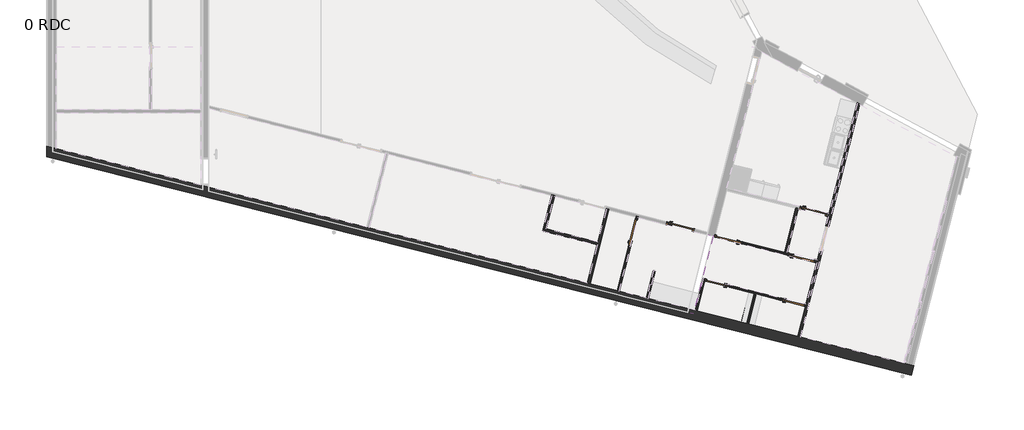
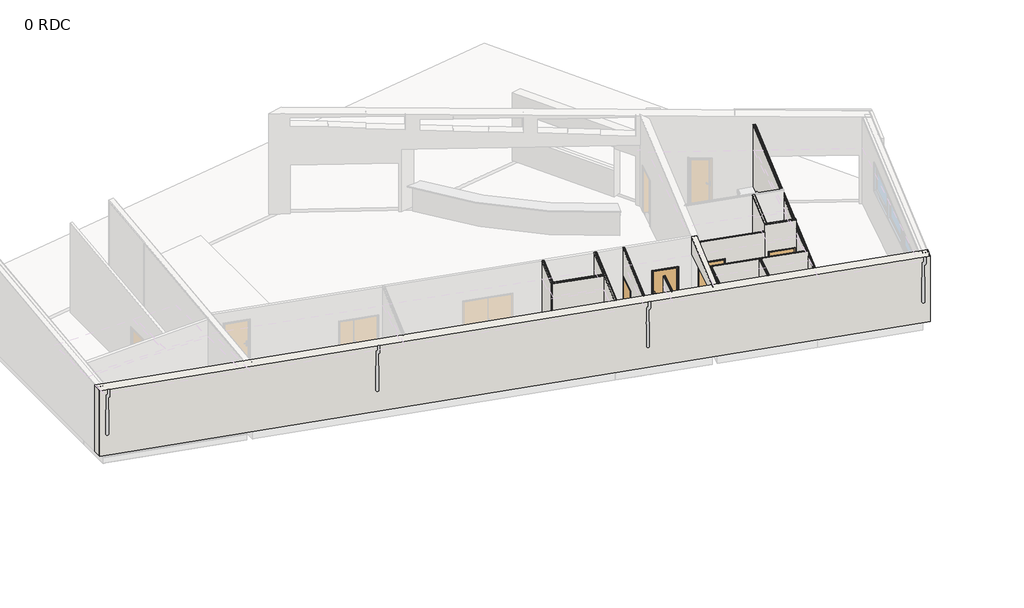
# One storey, part 1 of 4: 16 walls, 7 doors.
"""IFC4 building model written with IfcOpenShell, lengths in millimetres."""

from ifc_helpers import new_model, si_unit, frame, origin, place, context, project, spatial, polyline, outline, extrude, faceted_brep, transform, mapped, element, save
from components import int_simple_pp_0_83m_x_2_04m_d085e722, int_simple_pp_0_83m_x_2_04m_f50dcbdd, int_simple_pp_0_93m_x_2_04m_e5c7a8a5, int_simple_pp_0_93m_x_2_04m_fd0a7685, int_simple_pp_0_93m_x_2_04m_1a1e59e4

model = new_model("IFC4")

# Units and contexts
model_context = context("Model", 3, world=origin())
ifc_project = project(units=[si_unit("LENGTHUNIT", "METRE", prefix="MILLI")], contexts=[model_context])

# Site, building, storey
site = spatial("IfcSite", under=ifc_project)
building = spatial("IfcBuilding", under=site)
storey = spatial("IfcBuildingStorey", under=building, Name="0 RDC", Elevation=870000.0)

# Doors
placement = place(None, origin())
int_simple_pp_0_83m_x_2_04m_shape = int_simple_pp_0_83m_x_2_04m_d085e722(model_context)
element("IfcDoor", 1, ObjectType="Int. Simple : PP (0.83m x 2.04m)", at=placement, inside=storey, context=model_context, shape_type="MappedRepresentation", body=[
    mapped(int_simple_pp_0_83m_x_2_04m_shape, transform((43281.7809826, -2542.3321909, 870000.0), x_axis=(-0.9692836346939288, 0.24594559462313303, 0.0), y_axis=(-0.24594559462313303, -0.9692836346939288, 0.0), z_axis=(0.0, 0.0, 1.0))),
])
int_simple_pp_0_83m_x_2_04m_2_shape = int_simple_pp_0_83m_x_2_04m_f50dcbdd(model_context)
element("IfcDoor", 2, ObjectType="Int. Simple : PP (0.83m x 2.04m)", at=placement, inside=storey, context=model_context, shape_type="MappedRepresentation", body=[
    mapped(int_simple_pp_0_83m_x_2_04m_2_shape, transform((46034.5465051, -3240.8176796, 870000.0), x_axis=(0.9692836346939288, -0.24594559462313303, 0.0), y_axis=(0.24594559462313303, 0.9692836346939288, 0.0), z_axis=(0.0, 0.0, 1.0))),
])
int_simple_pp_0_93m_x_2_04m_shape = int_simple_pp_0_93m_x_2_04m_e5c7a8a5(model_context)
element("IfcDoor", 3, ObjectType="Int. Simple : PP (0.93m x 2.04m)", at=placement, inside=storey, context=model_context, shape_type="MappedRepresentation", body=[
    mapped(int_simple_pp_0_93m_x_2_04m_shape, transform((46345.2509501, -1650.3816552, 870000.0), x_axis=(0.9692836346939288, -0.24594559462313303, 0.0), y_axis=(0.24594559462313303, 0.9692836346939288, 0.0), z_axis=(0.0, 0.0, 1.0))),
])
int_simple_pp_0_93m_x_2_04m_2_shape = int_simple_pp_0_93m_x_2_04m_fd0a7685(model_context)
element("IfcDoor", 4, ObjectType="Int. Simple : PP (0.93m x 2.04m)", at=placement, inside=storey, context=model_context, shape_type="MappedRepresentation", body=[
    mapped(int_simple_pp_0_93m_x_2_04m_2_shape, transform((42022.2459393, -553.4643032, 870000.0), x_axis=(0.9692836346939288, -0.245945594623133, 0.0), y_axis=(0.245945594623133, 0.9692836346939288, 0.0), z_axis=(0.0, 0.0, 1.0))),
])
element("IfcDoor", 5, ObjectType="Int. Simple : PP (0.93m x 2.04m)", at=placement, inside=storey, context=model_context, shape_type="MappedRepresentation", body=[
    mapped(int_simple_pp_0_93m_x_2_04m_2_shape, transform((46762.8665697, -4.5380435, 870000.0), x_axis=(0.9692836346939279, -0.2459455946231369, 0.0), y_axis=(0.2459455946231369, 0.9692836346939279, 0.0), z_axis=(0.0, 0.0, 1.0))),
])
int_simple_pp_0_93m_x_2_04m_3_shape = int_simple_pp_0_93m_x_2_04m_1a1e59e4(model_context)
element("IfcDoor", 6, ObjectType="Int. Simple : PP (0.93m x 2.04m)", at=placement, inside=storey, context=model_context, shape_type="MappedRepresentation", body=[
    mapped(int_simple_pp_0_93m_x_2_04m_3_shape, transform((40319.8031781, -712.6454729, 870000.0), x_axis=(0.24594559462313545, 0.9692836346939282, 0.0), y_axis=(-0.9692836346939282, 0.24594559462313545, 0.0), z_axis=(0.0, 0.0, 1.0))),
])
element("IfcDoor", 7, ObjectType="Int. Simple : PP (0.93m x 2.04m)", at=placement, inside=storey, context=model_context, shape_type="MappedRepresentation", body=[
    mapped(int_simple_pp_0_93m_x_2_04m_3_shape, transform((43679.0724215, -987.2786783, 870000.0), x_axis=(-0.9692836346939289, 0.24594559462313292, 0.0), y_axis=(-0.24594559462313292, -0.9692836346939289, 0.0), z_axis=(0.0, 0.0, 1.0))),
])

# Walls
element("IfcWall", 8, ObjectType="Cloison de séparation", at=placement, inside=storey, context=model_context, shape_type="Brep", body=[
    faceted_brep([(46874.3928222, -1809.4064307, 872953.9215885), (46886.1982107, -1762.8808162, 872953.9215885), (46861.9661198, -1756.7321763, 872953.9215885), (46850.1607313, -1803.2577908, 872953.9215885), (46886.1982107, -1762.8808162, 870000.0), (46801.8705345, -1741.4835495, 870000.0), (46801.8705345, -1741.4835495, 872075.0), (45832.5868998, -1495.5379548, 872075.0), (45832.5868998, -1495.5379548, 870000.0), (45723.0578491, -1467.7461026, 870000.0), (45723.0578491, -1467.7461026, 872953.9215885), (45723.0578491, -1467.7461026, 873000.0), (45723.0578491, -1467.7461026, 873314.6288021), (46861.9661198, -1756.7321763, 873314.6288021), (46861.9661198, -1756.7321763, 873000.0), (46874.3928222, -1809.4064307, 870000.0), (46790.0651459, -1788.0091639, 870000.0), (46790.0651459, -1788.0091639, 872075.0), (45820.7815112, -1542.0635693, 872075.0), (45820.7815112, -1542.0635693, 870000.0), (45711.2524605, -1514.2717171, 870000.0), (46850.1607313, -1803.2577908, 873000.0), (46850.1607313, -1803.2577908, 873308.8688021), (45711.2524605, -1514.2717171, 873308.8688021), (45711.2524605, -1514.2717171, 873000.0), (45711.2524605, -1514.2717171, 872953.9215885)], [[[0, 1, 2, 3]], [[4, 5, 6, 7, 8, 9, 10, 11, 12, 13, 14, 2, 1]], [[5, 4, 15, 16]], [[6, 5, 16, 17]], [[7, 6, 17, 18]], [[8, 7, 18, 19]], [[9, 8, 19, 20]], [[16, 15, 0, 3, 21, 22, 23, 24, 25, 20, 19, 18, 17]], [[15, 4, 1, 0]], [[13, 12, 23, 22]], [[20, 25, 24, 23, 12, 11, 10, 9]], [[2, 14, 13, 22, 21, 3]]]),
    faceted_brep([(46808.0191743, -1717.2514586, 870000.0), (46868.1147597, -1732.5000855, 870000.0), (46861.9661198, -1756.7321763, 870000.0), (46801.8705345, -1741.4835495, 870000.0), (46801.8705345, -1741.4835495, 872075.0), (46808.0191743, -1717.2514586, 872075.0), (45832.5868998, -1495.5379548, 872075.0), (45838.7355396, -1471.305864, 872075.0), (45832.5868998, -1495.5379548, 870000.0), (45838.7355396, -1471.305864, 870000.0), (45769.5834635, -1479.5514912, 870000.0), (45775.7321034, -1455.3194003, 870000.0), (45799.9641943, -1461.4680402, 870000.0), (45775.7321034, -1455.3194003, 872953.9215885), (45775.7321034, -1455.3194003, 873000.0), (45775.7321034, -1455.3194003, 873317.6288021), (45799.9641943, -1461.4680402, 873317.6288021), (46868.1147597, -1732.5000855, 873317.6288021), (46868.1147597, -1732.5000855, 873000.0), (46868.1147597, -1732.5000855, 872953.9215885), (46861.9661198, -1756.7321763, 872953.9215885), (46861.9661198, -1756.7321763, 873000.0), (46861.9661198, -1756.7321763, 873314.6288021), (45769.5834635, -1479.5514912, 873314.6288021), (45769.5834635, -1479.5514912, 873000.0), (45769.5834635, -1479.5514912, 872953.9215885)], [[[0, 1, 2, 3]], [[0, 3, 4, 5]], [[5, 4, 6, 7]], [[7, 6, 8, 9]], [[9, 8, 10, 11, 12]], [[1, 0, 5, 7, 9, 12, 11, 13, 14, 15, 16, 17, 18, 19]], [[3, 2, 20, 21, 22, 23, 24, 25, 10, 8, 6, 4]], [[13, 11, 10, 25, 24, 23, 15, 14]], [[16, 15, 23, 22, 17]], [[2, 1, 19, 18, 17, 22, 21, 20]]]),
    faceted_brep([(46850.1607313, -1803.2577908, 870000.0), (46790.0651459, -1788.0091639, 870000.0), (46790.0651459, -1788.0091639, 872075.0), (45820.7815112, -1542.0635693, 872075.0), (45820.7815112, -1542.0635693, 870000.0), (45687.0203697, -1508.1230772, 870000.0), (45687.0203697, -1508.1230772, 872953.9215885), (45687.0203697, -1508.1230772, 873000.0), (45687.0203697, -1508.1230772, 873308.8688021), (46850.1607313, -1803.2577908, 873308.8688021), (46850.1607313, -1803.2577908, 873000.0), (46850.1607313, -1803.2577908, 872953.9215885), (46844.0120914, -1827.4898817, 870000.0), (46783.9165061, -1812.2412548, 870000.0), (46783.9165061, -1812.2412548, 872075.0), (45814.6328714, -1566.2956602, 872075.0), (45814.6328714, -1566.2956602, 870000.0), (45680.8717298, -1532.3551681, 870000.0), (45680.8717298, -1532.3551681, 872953.9215885), (45680.8717298, -1532.3551681, 873000.0), (45680.8717298, -1532.3551681, 873305.8688021), (46844.0120914, -1827.4898817, 872953.9215885), (46844.0120914, -1827.4898817, 873000.0), (46844.0120914, -1827.4898817, 873305.8688021)], [[[0, 1, 2, 3, 4, 5, 6, 7, 8, 9, 10, 11]], [[1, 0, 12, 13]], [[2, 1, 13, 14]], [[3, 2, 14, 15]], [[4, 3, 15, 16]], [[5, 4, 16, 17]], [[6, 5, 17, 18, 19, 20, 8, 7]], [[18, 17, 16, 15, 14, 13, 12, 21, 22, 23, 20, 19]], [[9, 8, 20, 23]], [[0, 11, 10, 9, 23, 22, 21, 12]]]),
])
element("IfcWall", 9, ObjectType="Cloison de séparation", at=placement, inside=storey, context=model_context, shape_type="SolidModel", body=[
    faceted_brep([(38705.1759923, -2570.9089153, 869990.0), (38705.1759923, -2570.9089153, 872979.1934277), (39380.8610423, 91.9989614, 873308.8688021), (39380.8610423, 91.9989614, 869990.0), (39427.3866568, 80.1935728, 869990.0), (38751.7102865, -2582.680097, 869990.0), (38751.7102865, -2582.680097, 872979.1976626), (39427.3866568, 80.1935728, 873308.8688021)], [[[0, 1, 2, 3]], [[4, 5, 0, 3]], [[2, 1, 6, 7]], [[5, 4, 7, 6]], [[7, 4, 3, 2]], [[0, 5, 6, 1]]]),
    extrude(outline(polyline([(-21.8250001, -4223.4752083), (-21.8250001, -914.6064062), (1232.1749999, -1065.0864062), (1232.1749999, -4223.4752083), (-21.8250001, -4223.4752083)])), frame((39375.4932797, 70.844346, 874223.4752083), z_axis=(-0.9692836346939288, 0.2459455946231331, 0.0), x_axis=(-0.2459455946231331, -0.9692836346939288, 0.0)), (0.0, 0.0, 1.0), 25.0),
    faceted_brep([(39427.3866568, 80.1935728, 869990.0), (38754.9075801, -2570.0794063, 869990.0), (38754.9075801, -2570.0794063, 872980.757663), (39427.3866568, 80.1935728, 873308.8688021), (39451.6187477, 74.044933, 869990.0), (38779.1441916, -2576.2102301, 869990.0), (38779.1441916, -2576.2102301, 872980.7598687), (39451.6187477, 74.044933, 873308.8688021)], [[[0, 1, 2, 3]], [[1, 0, 4, 5]], [[2, 1, 5, 6]], [[3, 2, 6, 7]], [[0, 3, 7, 4]], [[4, 7, 6, 5]]]),
    faceted_brep([(38684.1366744, -2552.1774009, 869990.0), (38708.3732859, -2558.3082247, 869990.0), (38708.3732859, -2558.3082247, 872980.7534281), (38684.1366744, -2552.1774009, 872980.7512224), (39036.4077873, -1163.8596911, 873152.6288021), (39060.6398781, -1170.008331, 873152.6288021), (39060.6398781, -1170.008331, 869990.0), (39036.4077873, -1163.8596911, 869990.0)], [[[0, 1, 2, 3]], [[4, 3, 2, 5]], [[4, 5, 6, 7]], [[2, 1, 6, 5]], [[0, 3, 4, 7]], [[1, 0, 7, 6]]]),
])
element("IfcWall", 10, ObjectType="Cloison de séparation", at=placement, inside=storey, context=model_context, shape_type="Brep", body=[
    faceted_brep([(46199.4681548, -4469.3176021, 872595.9497869), (46246.0024489, -4481.0887837, 872595.9497869), (46246.6400315, -4478.5760395, 872595.9497869), (46200.1057374, -4466.8048579, 872595.9497869), (46973.0170056, -1420.7236931, 872045.0), (46973.0170056, -1420.7236931, 869990.0), (46199.4681548, -4469.3176021, 869990.0), (46200.1057374, -4466.8048579, 872615.6563826), (48312.0829023, 3856.6005923, 873647.6203729), (48312.0829023, 3856.6005923, 872910.0), (48313.8727265, 3863.6543772, 872910.0), (48313.8727265, 3863.6543772, 869990.0), (47423.0974438, 353.0653583, 869990.0), (47423.0974438, 353.0653583, 872045.0), (47469.6230582, 341.2599698, 872045.0), (47019.5426201, -1432.5290817, 872045.0), (47019.5426201, -1432.5290817, 869990.0), (46246.0024489, -4481.0887837, 869990.0), (48357.454927, 3840.2488502, 869990.0), (47469.6230582, 341.2599698, 869990.0), (48357.454927, 3840.2488502, 872910.0), (48355.6651028, 3833.1950653, 872910.0), (48355.6651028, 3833.1950653, 873646.1821485), (46246.6400315, -4478.5760395, 872615.6606237)], [[[0, 1, 2, 3]], [[4, 5, 6, 0, 3, 7, 8, 9, 10, 11, 12, 13]], [[4, 13, 14, 15]], [[5, 4, 15, 16]], [[6, 5, 16, 17]], [[12, 11, 18, 19]], [[13, 12, 19, 14]], [[15, 14, 19, 18, 20, 21, 22, 23, 2, 1, 17, 16]], [[20, 10, 9, 21]], [[7, 3, 2, 23]], [[9, 8, 22, 21]], [[20, 18, 11, 10]], [[6, 17, 1, 0]], [[8, 7, 23, 22]]]),
    faceted_brep([(47422.1281601, 353.3113039, 872045.0), (47423.0974438, 353.0653583, 872045.0), (47303.8138304, -117.0372045, 872045.0), (47302.8445467, -116.7912589, 872045.0), (48312.0829023, 3856.6005923, 870000.0), (48289.3838395, 3868.790971, 870000.0), (48289.3838395, 3868.790971, 873648.3694482), (48312.0829023, 3856.6005923, 873647.6203729), (47422.1281601, 353.3113039, 870000.0), (47423.0974438, 353.0653583, 870000.0), (47302.8445467, -116.7912589, 870000.0), (47279.5817395, -110.8885646, 870000.0), (47279.5817395, -110.8885646, 873154.9553044), (47303.8138304, -117.0372045, 873154.9553044)], [[[0, 1, 2, 3]], [[4, 5, 6, 7]], [[1, 0, 8, 9]], [[8, 0, 3, 10]], [[9, 8, 10, 11, 5, 4]], [[6, 5, 11, 12]], [[1, 9, 4, 7, 13, 2]], [[6, 12, 13, 7]], [[12, 11, 10, 3, 2, 13]]]),
    faceted_brep([(47469.6230582, 341.2599698, 872045.0), (47019.5426201, -1432.5290817, 872045.0), (47019.5426201, -1432.5290817, 869990.0), (46246.6400315, -4478.5760395, 869990.0), (46246.6400315, -4478.5760395, 872615.6606237), (48355.6651028, 3833.1950653, 873646.1821485), (48355.6651028, 3833.1950653, 869990.0), (47469.6230582, 341.2599698, 869990.0), (47470.5923419, 341.0140242, 872045.0), (47249.2413067, -531.341247, 872045.0), (47272.5041139, -537.2439413, 872045.0), (47043.7747109, -1438.6777216, 872045.0), (47043.7747109, -1438.6777216, 869990.0), (46270.876643, -4484.7068633, 869990.0), (46270.876643, -4484.7068633, 872615.6628326), (48378.3641655, 3821.0046866, 873645.4330732), (48378.3641655, 3821.0046866, 869990.0), (47272.5041139, -537.2439413, 869990.0), (47249.2413067, -531.341247, 869990.0), (47470.5923419, 341.0140242, 869990.0)], [[[0, 1, 2, 3, 4, 5, 6, 7]], [[1, 0, 8, 9, 10, 11]], [[2, 1, 11, 12]], [[3, 2, 12, 13]], [[4, 3, 13, 14]], [[6, 5, 15, 16]], [[7, 6, 16, 17, 18, 19]], [[0, 7, 19, 8]], [[11, 10, 17, 16, 15, 14, 13, 12]], [[17, 10, 9, 18]], [[9, 8, 19, 18]], [[5, 4, 14, 15]]]),
    faceted_brep([(46466.9774949, -3313.4016936, 870000.0), (46844.0120914, -1827.4898817, 870000.0), (46850.1607313, -1803.2577908, 870000.0), (46874.3928222, -1809.4064307, 870000.0), (46486.782565, -3336.9974389, 870000.0), (46462.5504742, -3330.8487991, 870000.0), (46778.2657885, -2086.5992818, 872910.0), (46466.9774949, -3313.4016936, 872757.8968831), (46462.5504742, -3330.8487991, 872755.7337319), (46486.782565, -3336.9974389, 872755.7337319), (46802.4978793, -2092.7479217, 872910.0), (46874.3928222, -1809.4064307, 872945.1296374), (46850.1607313, -1803.2577908, 872945.1296374), (46844.0120914, -1827.4898817, 872942.1252608), (46486.782565, -3336.9974389, 872595.9497869), (46874.3928222, -1809.4064307, 872595.9497869), (46874.3928222, -1809.4064307, 872910.0), (46462.5504742, -3330.8487991, 872595.9497869), (46850.1607313, -1803.2577908, 872910.0), (46850.1607313, -1803.2577908, 872595.9497869)], [[[0, 1, 2, 3, 4, 5]], [[6, 7, 8, 9, 10, 11, 12, 13]], [[14, 4, 3, 15, 16, 11, 10, 9]], [[1, 0, 5, 17, 8, 7, 6, 13, 12, 18, 19, 2]], [[2, 19, 18, 12, 11, 16, 15, 3]], [[17, 5, 4, 14, 9, 8]]]),
    faceted_brep([(46948.7849147, -1414.5750533, 872045.0), (46973.0170056, -1420.7236931, 872045.0), (46973.0170056, -1420.7236931, 870000.0), (46948.7849147, -1414.5750533, 870000.0), (47200.777125, -519.0439673, 869990.0), (47177.5143177, -513.141273, 869990.0), (47267.776351, -157.4141791, 869990.0), (47291.0391582, -163.3168734, 869990.0), (47200.777125, -519.0439673, 872045.0), (47177.5143177, -513.141273, 872045.0), (47267.776351, -157.4141791, 873149.1869011), (46861.9661198, -1756.7321763, 872950.8980406), (46886.1982107, -1762.8808162, 872950.8980406), (47292.0084418, -163.5628189, 873149.1869011), (47292.0084418, -163.5628189, 872045.0), (46886.1982107, -1762.8808162, 872910.0), (46886.1982107, -1762.8808162, 872595.9497869), (46886.1982107, -1762.8808162, 870000.0), (47291.0391582, -163.3168734, 872045.0), (46861.9661198, -1756.7321763, 870000.0)], [[[0, 1, 2, 3]], [[4, 5, 6, 7]], [[8, 9, 5, 4]], [[10, 11, 12, 13]], [[2, 1, 14, 13, 12, 15, 16, 17]], [[8, 4, 7, 18]], [[9, 0, 3, 19, 11, 10, 6, 5]], [[19, 3, 2, 17]], [[0, 9, 8, 18, 14, 1]], [[11, 19, 17, 16, 15, 12]], [[6, 10, 13, 14, 18, 7]]]),
    faceted_brep([(46175.8691259, -4460.6740341, 869990.0), (46200.1057374, -4466.8048579, 869990.0), (46200.1057374, -4466.8048579, 872615.6563826), (46175.8691259, -4460.6740341, 872615.6541737), (46477.9285236, -3371.8916498, 872751.4074295), (46453.6964328, -3365.7430099, 872751.4074295), (46477.9285236, -3371.8916498, 869990.0), (46453.6964328, -3365.7430099, 869990.0)], [[[0, 1, 2, 3]], [[3, 2, 4, 5]], [[2, 1, 6, 4]], [[0, 3, 5, 7]], [[1, 0, 7, 6]], [[7, 5, 4, 6]]]),
])
element("IfcWall", 11, ObjectType="Cloison de séparation", at=placement, inside=storey, context=model_context, shape_type="SweptSolid", body=[
    extrude(outline(polyline([(1628.175, -5048.5152083), (-21.8250001, -5048.5152083), (-21.8250001, -1525.8864062), (1603.175, -1720.8864062), (1628.175, -1720.8864062), (1628.175, -5048.5152083)])), frame((46170.0259321, 98.6118907, 875038.5152083), z_axis=(-0.9692836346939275, 0.24594559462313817, 0.0), x_axis=(-0.24594559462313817, -0.9692836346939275, 0.0)), (0.0, 0.0, 1.0), 48.0),
    extrude(outline(polyline([(1676.175, -5048.5152083), (3.1750001, -5048.5152083), (3.1750001, -1528.8864062), (1603.1750001, -1720.8864062), (1676.175, -1720.8864062), (1676.175, -5048.5152083)])), frame((46123.5003176, 110.4172793, 875038.5152083), z_axis=(-0.9692836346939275, 0.24594559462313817, 0.0), x_axis=(-0.24594559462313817, -0.9692836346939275, 0.0)), (0.0, 0.0, 1.0), 25.0),
    extrude(outline(polyline([(-28.0, 10.0), (-28.0, -3509.6288021), (-1628.0, -3317.6288021), (-1628.0, 10.0), (-28.0, 10.0)])), frame((46200.3636223, 116.5257171, 870000.0), z_axis=(-0.9692836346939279, 0.24594559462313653, 0.0), x_axis=(0.24594559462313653, 0.9692836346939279, 0.0)), (0.0, 0.0, 1.0), 25.0),
])
element("IfcWall", 12, ObjectType="Int. Plâtre 7cm", at=placement, inside=storey, context=model_context, shape_type="SweptSolid", body=[
    extrude(outline(polyline([(44560.0607702, -4038.5343156), (44830.5657421, -2972.4609723), (44898.4155965, -2989.6771639), (44627.9232825, -4055.7006222), (44560.0607702, -4038.5343156)])), frame((0.0, 0.0, 870000.0), z_axis=(0.0, 0.0, 1.0), x_axis=(1.0, 0.0, 0.0)), (0.0, 0.0, 1.0), 1000.0),
])
element("IfcWall", 13, ObjectType="Int. Plâtre 7cm", at=placement, inside=storey, context=model_context, shape_type="SweptSolid", body=[
    extrude(outline(polyline([(44168.3971282, -3939.4602035), (44438.9751537, -2873.0989521), (44506.8250081, -2890.3151437), (44236.2596404, -3956.6265101), (44168.3971282, -3939.4602035)])), frame((0.0, 0.0, 870000.0), z_axis=(0.0, 0.0, 1.0), x_axis=(1.0, 0.0, 0.0)), (0.0, 0.0, 1.0), 1000.0),
])
element("IfcWall", 14, ObjectType="Cloison de séparation", at=placement, inside=storey, context=model_context, shape_type="SolidModel", body=[
    extrude(outline(polyline([(1305.175, -4233.4752083), (-21.825, -4233.4752083), (-21.825, -914.6064062), (1305.175, -1073.8464062), (1305.175, -4233.4752083)])), frame((37437.895294, 562.4895897, 874223.4752083), z_axis=(-0.9692836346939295, 0.24594559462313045, 0.0), x_axis=(-0.24594559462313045, -0.9692836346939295, 0.0)), (0.0, 0.0, 1.0), 25.0),
    extrude(outline(polyline([(-1225.0, 0.0), (29.0, 0.0), (29.0, -3308.8688021), (-1225.0, -3158.3888021), (-1225.0, 0.0)])), frame((37506.8883397, 537.5809512, 870000.0), z_axis=(-0.9692836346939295, 0.2459455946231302, 0.0), x_axis=(0.2459455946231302, 0.9692836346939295, 0.0)), (0.0, 0.0, 1.0), 25.0),
    faceted_brep([(37443.2630566, 583.644205, 870000.0), (37123.0418924, -678.3630873, 870000.0), (37123.0418924, -678.3630873, 873152.6288021), (37140.9959208, -607.605382, 873161.3888021), (37443.2630566, 583.644205, 873308.8688021), (37443.2630566, 583.644205, 873161.3888021), (37489.788671, 571.8388165, 870000.0), (37169.5675068, -690.1684759, 870000.0), (37169.5675068, -690.1684759, 873152.6288021), (37187.5215353, -619.4107706, 873161.3888021), (37489.788671, 571.8388165, 873308.8688021), (37489.788671, 571.8388165, 873161.3888021)], [[[0, 1, 2, 3, 4, 5]], [[1, 0, 6, 7]], [[3, 2, 8, 9, 10, 4]], [[7, 6, 11, 10, 9, 8]], [[6, 0, 5, 4, 10, 11]], [[1, 7, 8, 2]]]),
])
element("IfcWall", 15, ObjectType="Cloison de séparation", at=placement, inside=storey, context=model_context, shape_type="SweptSolid", body=[
    extrude(outline(polyline([(1193.0, 0.0), (1145.0, 0.0), (1145.0, 3158.3888021), (1193.0, 3152.6288021), (1193.0, 0.0)])), frame((39354.0529725, -13.6529548, 870000.0), z_axis=(-0.9692836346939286, 0.24594559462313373, 0.0), x_axis=(-0.24594559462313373, -0.9692836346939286, 0.0)), (0.0, 0.0, 1.0), 1951.0),
    extrude(outline(polyline([(1218.0000001, 3149.6288021), (1218.0000001, 0.0), (1193.0, 0.0), (1193.0, 3152.6288021), (1218.0000001, 3149.6288021)])), frame((39329.8208817, -7.5043149, 870000.0), z_axis=(-0.9692836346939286, 0.24594559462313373, 0.0), x_axis=(-0.24594559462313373, -0.9692836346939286, 0.0)), (0.0, 0.0, 1.0), 1974.0),
    extrude(outline(polyline([(1120.0, 0.0), (1120.0, 3161.3888021), (1145.0000001, 3158.3888021), (1145.0000001, 0.0), (1120.0, 0.0)])), frame((39329.8208817, -7.5043149, 870000.0), z_axis=(-0.9692836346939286, 0.24594559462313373, 0.0), x_axis=(-0.24594559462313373, -0.9692836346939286, 0.0)), (0.0, 0.0, 1.0), 1901.0),
])
element("IfcWall", 16, ObjectType="Mur exterieur doublé", at=placement, inside=storey, context=model_context, shape_type="Brep", body=[
    faceted_brep([(50301.229306, -5490.8038502, 870000.0), (49958.038887, -5403.9913856, 870000.0), (46274.0739366, -4472.1061726, 870000.0), (46179.0664195, -4448.0733434, 870000.0), (44627.9232825, -4055.7006222, 870000.0), (44560.0607702, -4038.5343156, 870000.0), (44432.0914614, -4006.1635661, 870000.0), (44362.2900203, -3988.5067937, 870000.0), (44236.2596404, -3956.6265101, 870000.0), (44168.3971282, -3939.4602035, 870000.0), (42597.520324, -3542.0957104, 870000.0), (42527.7188828, -3524.4389379, 870000.0), (40856.7065307, -3101.7444436, 870000.0), (40786.9050895, -3084.0876712, 870000.0), (39817.4406289, -2838.8547204, 870000.0), (39747.6391877, -2821.1979479, 870000.0), (38779.1441916, -2576.2102301, 870000.0), (38684.1366744, -2552.1774009, 870000.0), (30926.4820605, -589.8233287, 870000.0), (30831.4745434, -565.7904995, 870000.0), (25196.5091129, 859.614202, 870000.0), (24925.5091129, 928.1655852, 870000.0), (19784.6644129, 2228.5789232, 870000.0), (19430.6644129, 2318.1257484, 870000.0), (19430.6644129, 2318.1257484, 872978.9990369), (50301.229306, -5490.8038502, 872981.8084499), (50214.164542, -5833.9303496, 870000.0), (50214.164542, -5833.9303496, 872939.3284384), (19430.6644129, 1952.9755958, 872936.5269489), (19430.6644129, 1952.9755958, 870000.0)], [[[0, 1, 2, 3, 4, 5, 6, 7, 8, 9, 10, 11, 12, 13, 14, 15, 16, 17, 18, 19, 20, 21, 22, 23, 24, 25]], [[26, 27, 28, 29]], [[23, 22, 21, 20, 19, 18, 17, 16, 15, 14, 13, 12, 11, 10, 9, 8, 7, 6, 5, 4, 3, 2, 1, 0, 26, 29]], [[24, 23, 29, 28]], [[25, 24, 28, 27]], [[0, 25, 27, 26]]]),
])
element("IfcWall", 17, ObjectType="Cloison de distribution", at=placement, inside=storey, context=model_context, shape_type="Brep", body=[
    faceted_brep([(40437.3802042, -176.0817368, 870000.0), (40416.7207742, -257.5015621, 870000.0), (40416.7207742, -257.5015621, 872075.0), (40170.7751796, -1226.7851968, 872075.0), (40170.7751796, -1226.7851968, 869990.0), (39761.8922544, -2838.2128317, 869990.0), (39761.8922544, -2838.2128317, 872979.2895954), (40437.3802042, -176.0817368, 873308.8688021), (40440.2880551, -176.8195735, 870000.0), (40419.6286251, -258.2393989, 870000.0), (40419.6286251, -258.2393989, 872075.0), (40173.6830305, -1227.5230336, 872075.0), (40173.6830305, -1227.5230336, 869990.0), (39764.8006478, -2838.9485305, 869990.0), (40440.2880551, -176.8195735, 873308.8688021), (39764.8006478, -2838.9485305, 872979.2898601)], [[[0, 1, 2, 3, 4, 5, 6, 7]], [[1, 0, 8, 9]], [[2, 1, 9, 10]], [[3, 2, 10, 11]], [[4, 3, 11, 12]], [[5, 4, 12, 13]], [[9, 8, 14, 15, 13, 12, 11, 10]], [[14, 8, 0, 7]], [[5, 13, 15, 6]], [[7, 6, 15, 14]]]),
    faceted_brep([(40469.3665641, -184.1979414, 870000.0), (40448.7071341, -265.6177667, 870000.0), (40448.7071341, -265.6177667, 872075.0), (40202.7615395, -1234.9014014, 872075.0), (40202.7615395, -1234.9014014, 869990.0), (39793.8845816, -2846.3055191, 869990.0), (39793.8845816, -2846.3055191, 872979.2925069), (40469.3665641, -184.1979414, 873308.8688021), (40472.274415, -184.9357782, 870000.0), (40451.6149851, -266.3556035, 870000.0), (40451.6149851, -266.3556035, 872075.0), (40205.6693904, -1235.6392382, 872075.0), (40205.6693904, -1235.6392382, 869990.0), (39796.792975, -2847.0412179, 869990.0), (40472.274415, -184.9357782, 873308.8688021), (39796.792975, -2847.0412179, 872979.2927716)], [[[0, 1, 2, 3, 4, 5, 6, 7]], [[1, 0, 8, 9]], [[2, 1, 9, 10]], [[3, 2, 10, 11]], [[4, 3, 11, 12]], [[5, 4, 12, 13]], [[9, 8, 14, 15, 13, 12, 11, 10]], [[14, 8, 0, 7]], [[5, 13, 15, 6]], [[7, 6, 15, 14]]]),
    faceted_brep([(40399.2736688, -253.0745414, 870000.0), (40419.9330987, -171.6547161, 870000.0), (40437.3802042, -176.0817368, 870000.0), (40416.7207742, -257.5015621, 870000.0), (40419.9330987, -171.6547161, 873308.8688021), (40437.3802042, -176.0817368, 873308.8688021), (40416.7207742, -257.5015621, 872075.0), (40399.2736688, -253.0745414, 872075.0), (40170.7751796, -1226.7851968, 872075.0), (40153.3280742, -1222.3581761, 872075.0), (40170.7751796, -1226.7851968, 869990.0), (40153.3280742, -1222.3581761, 869990.0), (39747.6391877, -2821.1979479, 872980.8480077), (39747.6391877, -2821.1979479, 869990.0), (39765.089548, -2825.612141, 869990.0), (39765.089548, -2825.612141, 872980.8495958)], [[[0, 1, 2, 3]], [[2, 1, 4, 5]], [[0, 3, 6, 7]], [[7, 6, 8, 9]], [[9, 8, 10, 11]], [[12, 13, 14, 15]], [[11, 10, 14, 13]], [[3, 2, 5, 15, 14, 10, 8, 6]], [[4, 1, 0, 7, 9, 11, 13, 12]], [[4, 12, 15, 5]]]),
    faceted_brep([(40448.7071341, -265.6177667, 870000.0), (40469.3665641, -184.1979414, 870000.0), (40469.3665641, -184.1979414, 873308.8688021), (39793.8845816, -2846.3055191, 872979.2925069), (39793.8845816, -2846.3055191, 869990.0), (40202.7615395, -1234.9014014, 869990.0), (40202.7615395, -1234.9014014, 872075.0), (40448.7071341, -265.6177667, 872075.0), (40419.6286251, -258.2393989, 870000.0), (40440.2880551, -176.8195735, 870000.0), (40419.6286251, -258.2393989, 872075.0), (40173.6830305, -1227.5230336, 872075.0), (40173.6830305, -1227.5230336, 869990.0), (39764.8006478, -2838.9485305, 869990.0), (39764.8006478, -2838.9485305, 872979.2898601), (40440.2880551, -176.8195735, 873308.8688021)], [[[0, 1, 2, 3, 4, 5, 6, 7]], [[1, 0, 8, 9]], [[0, 7, 10, 8]], [[7, 6, 11, 10]], [[6, 5, 12, 11]], [[5, 4, 13, 12]], [[9, 8, 10, 11, 12, 13, 14, 15]], [[2, 1, 9, 15]], [[13, 4, 3, 14]], [[3, 2, 15, 14]]]),
    faceted_brep([(40472.274415, -184.9357782, 869990.0), (40451.6149851, -266.3556035, 869990.0), (40451.6149851, -266.3556035, 872075.0), (40205.6693904, -1235.6392382, 872075.0), (40205.6693904, -1235.6392382, 869990.0), (39799.9902686, -2834.4405272, 869990.0), (39799.9902686, -2834.4405272, 872980.852772), (40472.274415, -184.9357782, 873308.8688021), (39817.4406289, -2838.8547204, 872980.8543601), (39817.4406289, -2838.8547204, 869990.0), (40223.1164959, -1240.0662589, 869990.0), (40223.1164959, -1240.0662589, 872075.0), (40469.0620905, -270.7826242, 872075.0), (40469.0620905, -270.7826242, 869990.0), (40489.7215204, -189.3627989, 869990.0), (40489.7215204, -189.3627989, 873308.8688021)], [[[0, 1, 2, 3, 4, 5, 6, 7]], [[8, 9, 10, 11, 12, 13, 14, 15]], [[1, 0, 14, 13]], [[0, 7, 15, 14]], [[2, 1, 13, 12]], [[3, 2, 12, 11]], [[4, 3, 11, 10]], [[6, 5, 9, 8]], [[5, 4, 10, 9]], [[7, 6, 8, 15]]]),
])
element("IfcWall", 18, ObjectType="Cloison de distribution", at=placement, inside=storey, context=model_context, shape_type="SweptSolid", body=[
    extrude(outline(polyline([(40836.0588768, -3109.9309412), (40833.1504834, -3109.1952423), (41084.4284154, -2118.896605), (41087.3362663, -2119.6344418), (40836.0588768, -3109.9309412)])), frame((0.0, 0.0, 869990.0), z_axis=(0.0, 0.0, 1.0), x_axis=(1.0, 0.0, 0.0)), (0.0, 0.0, 1.0), 3010.0),
    extrude(outline(polyline([(40804.0665496, -3101.8382538), (40801.1581562, -3101.1025549), (41052.4420554, -2110.7804004), (41055.3499063, -2111.5182372), (40804.0665496, -3101.8382538)])), frame((0.0, 0.0, 869990.0), z_axis=(0.0, 0.0, 1.0), x_axis=(1.0, 0.0, 0.0)), (0.0, 0.0, 1.0), 3010.0),
    extrude(outline(polyline([(41104.7833717, -2124.0614625), (40856.7065307, -3101.7444436), (40839.2561704, -3097.3302505), (41087.3362663, -2119.6344418), (41104.7833717, -2124.0614625)])), frame((0.0, 0.0, 869990.0), z_axis=(0.0, 0.0, 1.0), x_axis=(1.0, 0.0, 0.0)), (0.0, 0.0, 1.0), 3010.0),
    extrude(outline(polyline([(40833.1504834, -3109.1952423), (40804.0665496, -3101.8382538), (41055.3499063, -2111.5182372), (41084.4284154, -2118.896605), (40833.1504834, -3109.1952423)])), frame((0.0, 0.0, 869990.0), z_axis=(0.0, 0.0, 1.0), x_axis=(1.0, 0.0, 0.0)), (0.0, 0.0, 1.0), 3010.0),
    extrude(outline(polyline([(40786.9050895, -3084.0876712), (41034.99495, -2106.3533797), (41052.4420554, -2110.7804004), (40804.3554498, -3088.5018643), (40786.9050895, -3084.0876712)])), frame((0.0, 0.0, 869990.0), z_axis=(0.0, 0.0, 1.0), x_axis=(1.0, 0.0, 0.0)), (0.0, 0.0, 1.0), 3010.0),
])
element("IfcWall", 19, ObjectType="Cloison de distribution", at=placement, inside=storey, context=model_context, shape_type="SolidModel", body=[
    faceted_brep([(42883.9552949, -2422.8176637, 870000.0), (42829.3310976, -2408.9573444, 870000.0), (42829.3310976, -2408.9573444, 872757.9160543), (42829.3310976, -2408.9573444, 873000.0), (46462.5504742, -3330.8487991, 873000.0), (46462.5504742, -3330.8487991, 872757.9160543), (46486.782565, -3336.9974389, 872757.9160543), (46486.782565, -3336.9974389, 870000.0), (46441.2262342, -3325.437996, 870000.0), (46441.2262342, -3325.437996, 872075.0), (45568.870963, -3104.0869608, 872075.0), (45568.870963, -3104.0869608, 870000.0), (43756.3105661, -2644.1686989, 870000.0), (43756.3105661, -2644.1686989, 872075.0), (42883.9552949, -2422.8176637, 872075.0), (46486.0447282, -3339.9052898, 870000.0), (46440.4883974, -3328.3458469, 870000.0), (42883.2174581, -2425.7255146, 872075.0), (42883.2174581, -2425.7255146, 870000.0), (43755.5727293, -2647.0765498, 872075.0), (43755.5727293, -2647.0765498, 870000.0), (46440.4883974, -3328.3458469, 872075.0), (45568.1331262, -3106.9948117, 872075.0), (45568.1331262, -3106.9948117, 870000.0), (42828.5932608, -2411.8651953, 870000.0), (46486.0447282, -3339.9052898, 872757.9160543), (46461.8126374, -3333.75665, 872757.9160543), (46461.8126374, -3333.75665, 873000.0), (42828.5932608, -2411.8651953, 873000.0), (42828.5932608, -2411.8651953, 872757.9160543)], [[[0, 1, 2, 3, 4, 5, 6, 7, 8, 9, 10, 11, 12, 13, 14]], [[8, 7, 15, 16]], [[0, 14, 17, 18]], [[14, 13, 19, 17]], [[13, 12, 20, 19]], [[9, 8, 16, 21]], [[10, 9, 21, 22]], [[11, 10, 22, 23]], [[1, 0, 18, 24]], [[12, 11, 23, 20]], [[16, 15, 25, 26, 27, 28, 29, 24, 18, 17, 19, 20, 23, 22, 21]], [[15, 7, 6, 25]], [[1, 24, 29, 28, 3, 2]], [[25, 6, 5, 26]], [[5, 4, 27, 26]], [[4, 3, 28, 27]]]),
    faceted_brep([(46478.6663604, -3368.9837989, 870000.0), (46433.1100296, -3357.4243559, 870000.0), (46433.1100296, -3357.4243559, 872075.0), (45560.7547584, -3136.0733208, 872075.0), (45560.7547584, -3136.0733208, 870000.0), (44687.4302035, -2914.47634, 870000.0), (44687.4302035, -2914.47634, 872757.9160543), (44687.4302035, -2914.47634, 873000.0), (46454.4342695, -3362.835159, 873000.0), (46454.4342695, -3362.835159, 872757.9160543), (46478.6663604, -3368.9837989, 872757.9160543), (46477.9285236, -3371.8916498, 870000.0), (46432.3721928, -3360.3322068, 870000.0), (46432.3721928, -3360.3322068, 872075.0), (45560.0169216, -3138.9811717, 872075.0), (45560.0169216, -3138.9811717, 870000.0), (44689.6002176, -2918.1220277, 870000.0), (44686.6923667, -2917.3841909, 870000.0), (46477.9285236, -3371.8916498, 872757.9160543), (46453.6964328, -3365.7430099, 872757.9160543), (46453.6964328, -3365.7430099, 873000.0), (44689.6002176, -2918.1220277, 873000.0), (44686.6923667, -2917.3841909, 873000.0), (44686.6923667, -2917.3841909, 872757.9160543)], [[[0, 1, 2, 3, 4, 5, 6, 7, 8, 9, 10]], [[1, 0, 11, 12]], [[2, 1, 12, 13]], [[3, 2, 13, 14]], [[4, 3, 14, 15]], [[4, 15, 16, 17, 5]], [[12, 11, 18, 19, 20, 21, 22, 23, 17, 16, 15, 14, 13]], [[11, 0, 10, 18]], [[18, 10, 9, 19]], [[9, 8, 20, 19]], [[6, 5, 17, 23, 22, 7]], [[8, 7, 22, 21, 20]]]),
    faceted_brep([(46445.6532549, -3307.9908906, 870000.0), (46466.9774949, -3313.4016936, 870000.0), (46462.5504742, -3330.8487991, 870000.0), (46441.2262342, -3325.437996, 870000.0), (42888.3823156, -2405.3705583, 870000.0), (42888.3823156, -2405.3705583, 872075.0), (42883.9552949, -2422.8176637, 872075.0), (42883.9552949, -2422.8176637, 870000.0), (43760.7375868, -2626.7215935, 872075.0), (43756.3105661, -2644.1686989, 872075.0), (43760.7375868, -2626.7215935, 870000.0), (43756.3105661, -2644.1686989, 870000.0), (46441.2262342, -3325.437996, 872075.0), (46445.6532549, -3307.9908906, 872075.0), (45568.870963, -3104.0869608, 872075.0), (45573.2979837, -3086.6398554, 872075.0), (45568.870963, -3104.0869608, 870000.0), (45573.2979837, -3086.6398554, 870000.0), (42816.3110129, -2387.0832183, 872757.9160543), (42816.3110129, -2387.0832183, 870000.0), (42811.8839922, -2404.5303237, 870000.0), (42811.8839922, -2404.5303237, 872757.9160543), (42811.8839922, -2404.5303237, 873000.0), (42816.3110129, -2387.0832183, 873000.0), (46462.5504742, -3330.8487991, 872757.9160543), (46462.5504742, -3330.8487991, 873000.0), (46466.9774949, -3313.4016936, 873000.0), (46466.9774949, -3313.4016936, 872757.9160543)], [[[0, 1, 2, 3]], [[4, 5, 6, 7]], [[6, 5, 8, 9]], [[9, 8, 10, 11]], [[0, 3, 12, 13]], [[13, 12, 14, 15]], [[15, 14, 16, 17]], [[18, 19, 20, 21, 22, 23]], [[11, 10, 17, 16]], [[4, 7, 20, 19]], [[3, 2, 24, 25, 22, 21, 20, 7, 6, 9, 11, 16, 14, 12]], [[1, 0, 13, 15, 17, 10, 8, 5, 4, 19, 18, 23, 26, 27]], [[2, 1, 27, 26, 25, 24]], [[26, 23, 22, 25]]]),
    faceted_brep([(42824.1227439, -2441.6815411, 870000.0), (42875.8390902, -2454.8040237, 870000.0), (42875.8390902, -2454.8040237, 872075.0), (43748.1943615, -2676.1550588, 872075.0), (43748.1943615, -2676.1550588, 870000.0), (44658.3516945, -2907.0979722, 870000.0), (44687.4302035, -2914.47634, 870000.0), (45560.7547584, -3136.0733208, 870000.0), (45560.7547584, -3136.0733208, 872075.0), (46433.1100296, -3357.4243559, 872075.0), (46433.1100296, -3357.4243559, 870000.0), (46478.6663604, -3368.9837989, 870000.0), (46478.6663604, -3368.9837989, 872757.9160543), (46454.4342695, -3362.835159, 872757.9160543), (46454.4342695, -3362.835159, 873000.0), (44687.4302035, -2914.47634, 873000.0), (44658.3516945, -2907.0979722, 873000.0), (42824.1227439, -2441.6815411, 873000.0), (42824.1227439, -2441.6815411, 872757.9160543), (46440.4883974, -3328.3458469, 870000.0), (46486.0447282, -3339.9052898, 870000.0), (42883.2174581, -2425.7255146, 870000.0), (42883.2174581, -2425.7255146, 872075.0), (43755.5727293, -2647.0765498, 872075.0), (43755.5727293, -2647.0765498, 870000.0), (46440.4883974, -3328.3458469, 872075.0), (45568.1331262, -3106.9948117, 872075.0), (45568.1331262, -3106.9948117, 870000.0), (42831.5011117, -2412.6030321, 870000.0), (42831.5011117, -2412.6030321, 872757.9160543), (42831.5011117, -2412.6030321, 873000.0), (46461.8126374, -3333.75665, 873000.0), (46461.8126374, -3333.75665, 872757.9160543), (46486.0447282, -3339.9052898, 872757.9160543)], [[[0, 1, 2, 3, 4, 5, 6, 7, 8, 9, 10, 11, 12, 13, 14, 15, 16, 17, 18]], [[11, 10, 19, 20]], [[2, 1, 21, 22]], [[3, 2, 22, 23]], [[4, 3, 23, 24]], [[10, 9, 25, 19]], [[9, 8, 26, 25]], [[8, 7, 27, 26]], [[1, 0, 28, 21]], [[4, 24, 27, 7, 6, 5]], [[20, 19, 25, 26, 27, 24, 23, 22, 21, 28, 29, 30, 31, 32, 33]], [[11, 20, 33, 12]], [[28, 0, 18, 17, 30, 29]], [[12, 33, 32, 13]], [[14, 13, 32, 31]], [[15, 14, 31, 30, 17, 16]]]),
    extrude(outline(polyline([(-4507.7363002, 0.0), (-4507.7363002, -2075.0), (-3607.7363002, -2075.0), (-3607.7363002, 10.0), (-3585.7363002, 10.0), (-3585.7363002, -3000.0), (-5405.7363003, -3000.0), (-5405.7363003, 0.0), (-4507.7363002, 0.0)])), frame((49924.8649262, -4265.0861619, 870000.0), z_axis=(0.24594559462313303, 0.9692836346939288, 0.0), x_axis=(0.9692836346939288, -0.24594559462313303, 0.0)), (0.0, 0.0, 1.0), 18.0),
    faceted_brep([(42875.8390902, -2454.8040237, 870000.0), (42875.8390902, -2454.8040237, 872075.0), (42875.1012535, -2457.7118746, 872075.0), (42875.1012535, -2457.7118746, 870000.0), (43748.1943615, -2676.1550588, 872075.0), (43747.4565247, -2679.0629097, 872075.0), (43748.1943615, -2676.1550588, 870000.0), (43747.4565247, -2679.0629097, 870000.0), (42853.2012529, -2449.059909, 870000.0), (42852.4634161, -2451.9677599, 870000.0), (42852.4634161, -2451.9677599, 872757.9160543), (42852.4634161, -2451.9677599, 873000.0), (42853.2012529, -2449.059909, 873000.0), (42853.2012529, -2449.059909, 872757.9160543), (44654.7060068, -2909.2679863, 870000.0), (44657.6138577, -2910.0058231, 870000.0), (44657.6138577, -2910.0058231, 872757.9160543), (44657.6138577, -2910.0058231, 873000.0), (44654.7060068, -2909.2679863, 873000.0), (44658.3516945, -2907.0979722, 870000.0), (44658.3516945, -2907.0979722, 873000.0), (44658.3516945, -2907.0979722, 872757.9160543)], [[[0, 1, 2, 3]], [[1, 4, 5, 2]], [[4, 6, 7, 5]], [[8, 0, 3, 9]], [[8, 9, 10, 11, 12, 13]], [[3, 2, 5, 7, 14, 15, 16, 17, 18, 11, 10, 9]], [[7, 6, 19, 15, 14]], [[0, 8, 13, 12, 20, 21, 19, 6, 4, 1]], [[19, 21, 20, 17, 16, 15]], [[20, 12, 11, 18, 17]]]),
    faceted_brep([(42850.9442463, -2470.1527021, 870000.0), (42868.3913518, -2474.5797228, 870000.0), (42870.6742328, -2475.15898, 870000.0), (42870.6742328, -2475.15898, 872075.0), (43743.029504, -2696.5100152, 872075.0), (43743.029504, -2696.5100152, 870000.0), (44438.9751537, -2873.0989521, 870000.0), (44506.8250081, -2890.3151437, 870000.0), (44632.8318806, -2922.288071, 870000.0), (44650.2789861, -2926.7150917, 870000.0), (44650.2789861, -2926.7150917, 872757.9160543), (44650.2789861, -2926.7150917, 873000.0), (44632.8318806, -2922.288071, 873000.0), (42868.3913518, -2474.5797228, 873000.0), (42850.9442463, -2470.1527021, 873000.0), (42850.9442463, -2470.1527021, 872757.9160543), (42875.1012535, -2457.7118746, 870000.0), (42875.1012535, -2457.7118746, 872075.0), (43747.4565247, -2679.0629097, 872075.0), (43747.4565247, -2679.0629097, 870000.0), (42855.371267, -2452.7055967, 870000.0), (44654.7060068, -2909.2679863, 870000.0), (42855.371267, -2452.7055967, 872757.9160543), (42855.371267, -2452.7055967, 873000.0), (44654.7060068, -2909.2679863, 873000.0), (44654.7060068, -2909.2679863, 872757.9160543)], [[[0, 1, 2, 3, 4, 5, 6, 7, 8, 9, 10, 11, 12, 13, 14, 15]], [[16, 17, 3, 2]], [[17, 18, 4, 3]], [[18, 19, 5, 4]], [[20, 16, 2, 1, 0]], [[6, 5, 19, 21, 9, 8, 7]], [[16, 20, 22, 23, 24, 25, 21, 19, 18, 17]], [[0, 15, 14, 23, 22, 20]], [[21, 25, 24, 11, 10, 9]], [[24, 23, 14, 13, 12, 11]]]),
])
element("IfcWall", 20, ObjectType="Cloison de distribution", at=placement, inside=storey, context=model_context, shape_type="SweptSolid", body=[
    extrude(outline(polyline([(44654.7060068, -2909.2679863), (44657.6138577, -2910.0058231), (44379.4514804, -4006.2573763), (44376.543087, -4005.5216774), (44654.7060068, -2909.2679863)])), frame((0.0, 0.0, 869990.0), z_axis=(0.0, 0.0, 1.0), x_axis=(1.0, 0.0, 0.0)), (0.0, 0.0, 1.0), 3010.0),
    extrude(outline(polyline([(44686.6923667, -2917.3841909), (44689.6002176, -2918.1220277), (44411.4438076, -4014.3500637), (44408.5354142, -4013.6143648), (44686.6923667, -2917.3841909)])), frame((0.0, 0.0, 869990.0), z_axis=(0.0, 0.0, 1.0), x_axis=(1.0, 0.0, 0.0)), (0.0, 0.0, 1.0), 3010.0),
    extrude(outline(polyline([(44362.2900203, -3988.5067937), (44632.8318806, -2922.288071), (44650.2789861, -2926.7150917), (44379.7403806, -3992.9209868), (44362.2900203, -3988.5067937)])), frame((0.0, 0.0, 869990.0), z_axis=(0.0, 0.0, 1.0), x_axis=(1.0, 0.0, 0.0)), (0.0, 0.0, 1.0), 3010.0),
    extrude(outline(polyline([(44658.3516945, -2907.0979722), (44687.4302035, -2914.47634), (44408.5354142, -4013.6143648), (44379.4514804, -4006.2573763), (44658.3516945, -2907.0979722)])), frame((0.0, 0.0, 869990.0), z_axis=(0.0, 0.0, 1.0), x_axis=(1.0, 0.0, 0.0)), (0.0, 0.0, 1.0), 3010.0),
    extrude(outline(polyline([(44702.6203023, -2939.9961538), (44432.0914614, -4006.1635661), (44414.6411012, -4001.749373), (44685.1731969, -2935.5691331), (44702.6203023, -2939.9961538)])), frame((0.0, 0.0, 869990.0), z_axis=(0.0, 0.0, 1.0), x_axis=(1.0, 0.0, 0.0)), (0.0, 0.0, 1.0), 3010.0),
])
element("IfcWall", 21, ObjectType="Cloison de distribution", at=placement, inside=storey, context=model_context, shape_type="SweptSolid", body=[
    extrude(outline(polyline([(42527.7188828, -3524.4389379), (42811.8839922, -2404.5303237), (42829.3310976, -2408.9573444), (42545.1692431, -3528.853131), (42527.7188828, -3524.4389379)])), frame((0.0, 0.0, 869990.0), z_axis=(0.0, 0.0, 1.0), x_axis=(1.0, 0.0, 0.0)), (0.0, 0.0, 1.0), 3010.0),
    extrude(outline(polyline([(42576.8726701, -3550.2822079), (42573.9642767, -3549.5465091), (42852.4634161, -2451.9677599), (42855.371267, -2452.7055967), (42576.8726701, -3550.2822079)])), frame((0.0, 0.0, 869990.0), z_axis=(0.0, 0.0, 1.0), x_axis=(1.0, 0.0, 0.0)), (0.0, 0.0, 1.0), 3010.0),
    extrude(outline(polyline([(42544.8803429, -3542.1895205), (42541.9719495, -3541.4538217), (42828.5932608, -2411.8651953), (42831.5011117, -2412.6030321), (42544.8803429, -3542.1895205)])), frame((0.0, 0.0, 869990.0), z_axis=(0.0, 0.0, 1.0), x_axis=(1.0, 0.0, 0.0)), (0.0, 0.0, 1.0), 3010.0),
    extrude(outline(polyline([(42868.3913518, -2474.5797228), (42597.520324, -3542.0957104), (42580.0699637, -3537.6815172), (42850.9442463, -2470.1527021), (42868.3913518, -2474.5797228)])), frame((0.0, 0.0, 869990.0), z_axis=(0.0, 0.0, 1.0), x_axis=(1.0, 0.0, 0.0)), (0.0, 0.0, 1.0), 3010.0),
    extrude(outline(polyline([(42573.9642767, -3549.5465091), (42544.8803429, -3542.1895205), (42824.1227439, -2441.6815411), (42853.2012529, -2449.059909), (42573.9642767, -3549.5465091)])), frame((0.0, 0.0, 869990.0), z_axis=(0.0, 0.0, 1.0), x_axis=(1.0, 0.0, 0.0)), (0.0, 0.0, 1.0), 3010.0),
])
element("IfcWall", 22, ObjectType="Cloison de distribution", at=placement, inside=storey, context=model_context, shape_type="SweptSolid", body=[
    extrude(outline(polyline([(3.175, -294.8), (10.175, -294.8), (10.175, -2379.8), (1010.175, -2379.8), (1010.175, -294.8), (2549.5454708, -294.8), (2549.5454708, -3304.8), (3.175, -3304.8), (3.175, -294.8)])), frame((43222.1822543, -855.8722259, 869695.2), z_axis=(0.24594559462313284, 0.9692836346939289, 0.0), x_axis=(0.9692836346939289, -0.24594559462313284, 0.0)), (0.0, 0.0, 1.0), 3.0),
    extrude(outline(polyline([(3.175, -294.8), (10.175, -294.8), (10.175, -2379.8), (1010.1749999, -2379.8), (1010.1749999, -294.8), (2549.5454709, -294.8), (2549.5454709, -3304.8), (3.175, -3304.8), (3.175, -294.8)])), frame((43214.0660497, -887.8585858, 869695.2), z_axis=(0.2459455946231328, 0.9692836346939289, 0.0), x_axis=(0.9692836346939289, -0.2459455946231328, 0.0)), (0.0, 0.0, 1.0), 3.0),
    extrude(outline(polyline([(3.1749999, -294.8), (10.175, -294.8), (10.175, -2379.8), (1010.175, -2379.8), (1010.175, -294.8), (2549.5454708, -294.8), (2549.5454708, -3304.8), (3.1749999, -3304.8), (3.1749999, -294.8)])), frame((43222.9200911, -852.964375, 869695.2), z_axis=(0.2459455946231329, 0.9692836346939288, 0.0), x_axis=(0.9692836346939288, -0.2459455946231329, 0.0)), (0.0, 0.0, 1.0), 18.0),
    extrude(outline(polyline([(3.175, -294.8), (10.1749999, -294.8), (10.1749999, -2379.8), (1010.1749999, -2379.8), (1010.1749999, -294.8), (2549.5454709, -294.8), (2549.5454709, -3304.8), (3.175, -3304.8), (3.175, -294.8)])), frame((43214.8038865, -884.9507349, 869695.2), z_axis=(0.24594559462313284, 0.9692836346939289, 0.0), x_axis=(0.9692836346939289, -0.24594559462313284, 0.0)), (0.0, 0.0, 1.0), 30.0),
    extrude(outline(polyline([(2559.3704708, -3000.0), (12.9999999, -3000.0), (12.9999999, 10.0), (20.0, 10.0), (20.0, -2075.0), (1019.9999999, -2075.0), (1019.9999999, 10.0), (2559.3704708, 10.0), (2559.3704708, -3000.0)])), frame((43200.1158173, -902.8892758, 870000.0), z_axis=(0.24594559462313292, 0.9692836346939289, 0.0), x_axis=(0.9692836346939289, -0.24594559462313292, 0.0)), (0.0, 0.0, 1.0), 18.0),
])
element("IfcWall", 23, ObjectType="Int. Voile BA 20", at=placement, inside=storey, context=model_context, shape_type="Brep", body=[
    faceted_brep([(42968.7899142, -818.4005009, 872550.0), (42266.3025357, -3595.5009897, 872550.0), (42266.3025357, -3595.5009897, 872965.1201943), (42968.7899142, -818.4005009, 873308.8688021), (43162.6466936, -867.5896332, 872550.0), (42460.1953754, -3644.5475667, 872550.0), (42460.1953754, -3644.5475667, 872965.1378397), (43162.6466936, -867.5896332, 873308.8688021)], [[[0, 1, 2, 3]], [[1, 0, 4, 5]], [[3, 2, 6, 7]], [[0, 3, 7, 4]], [[4, 7, 6, 5]], [[2, 1, 5, 6]]]),
])

save(model, "model.ifc")
